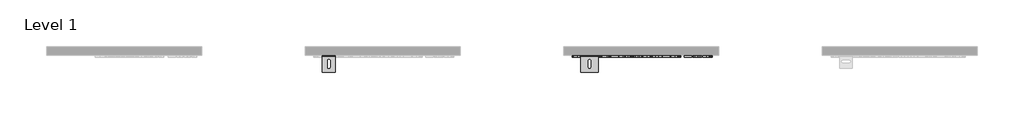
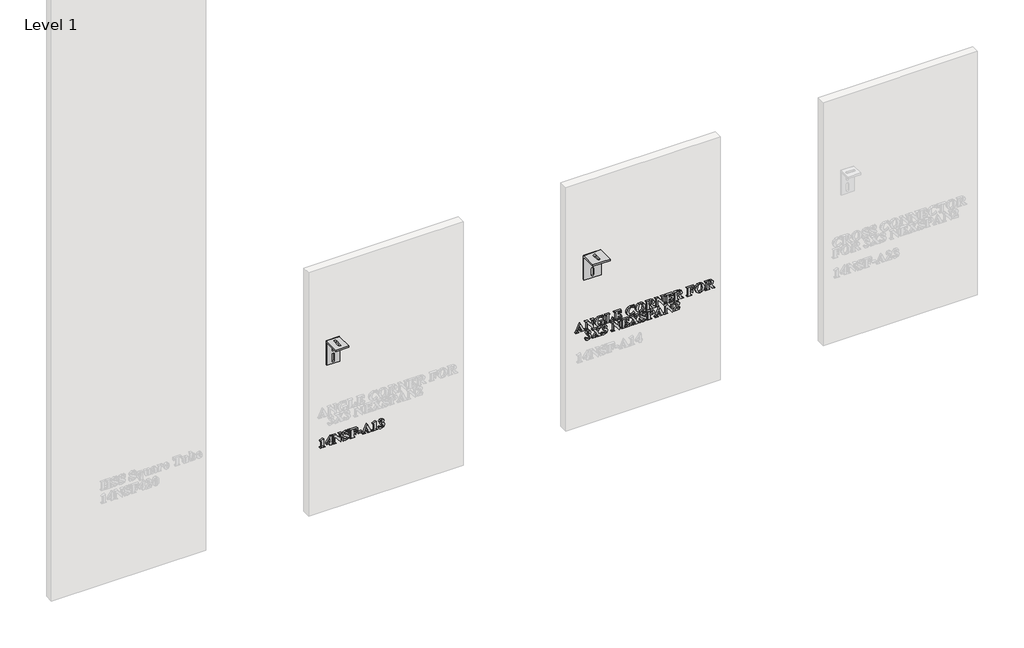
# One storey, part 4 of 21: 4 proxies.
"""IFC4 building model written with IfcOpenShell, lengths in millimetres."""

from ifc_helpers import new_model, si_unit, frame, origin, place, context, project, spatial, polyline, outline, extrude, transform, mapped, element, save
from components import generic_models_b7856e18, generic_models_f0b3e273

model = new_model("IFC4")

# Units and contexts
model_context = context("Model", 3, world=origin())
ifc_project = project(units=[si_unit("LENGTHUNIT", "METRE", prefix="MILLI")], contexts=[model_context])

# Site, building, storey
site = spatial("IfcSite", under=ifc_project)
building = spatial("IfcBuilding", under=site)
storey = spatial("IfcBuildingStorey", under=building, Name="Level 1", Elevation=0.0)

# Proxies
placement = place(None, origin())
element("IfcBuildingElementProxy", 1, Name="2\"\" Arial", ObjectType="2\"\" Arial", at=placement, inside=storey, context=model_context, shape_type="SweptSolid", body=[
    extrude(outline(polyline([(463.8692305, 2388.4026674), (455.0050049, 2368.6451396), (453.2321598, 2369.3099565), (454.4648412, 2373.8667225), (453.827725, 2375.9442753), (452.3111114, 2377.1769567), (447.9136245, 2377.5093652), (421.3209478, 2377.5093652), (415.2544934, 2376.9899769), (413.2046413, 2375.0024514), (412.4567222, 2368.6451396), (410.6838771, 2368.6451396), (410.6838771, 2397.0106614), (412.4567222, 2395.77798), (413.273893, 2391.3043162), (415.3791466, 2389.4691445), (421.3209478, 2389.0328584), (463.8692305, 2388.4026674)])), frame((0.0, -15490.3579358, 0.0), z_axis=(0.0, 1.0, 0.0), x_axis=(0.0, 0.0, 1.0)), (0.0, 0.0, 1.0), 12.7),
    extrude(outline(polyline([(430.1851733, 2405.874887), (422.2073703, 2405.874887), (422.2073703, 2424.4897607), (410.6838771, 2424.4897607), (410.6838771, 2436.0132539), (422.2073703, 2436.0132539), (422.2073703, 2440.4453667), (430.1851733, 2440.4453667), (430.1851733, 2436.0132539), (463.8692305, 2436.0132539), (463.8692305, 2430.9024738), (430.1851733, 2405.874887)]), holes=[polyline([(430.1851733, 2408.5618553), (451.6116686, 2424.4897607), (430.1851733, 2424.4897607), (430.1851733, 2408.5618553)])]), frame((0.0, -15490.3579358, 0.0), z_axis=(0.0, 1.0, 0.0), x_axis=(0.0, 0.0, 1.0)), (0.0, 0.0, 1.0), 12.7),
    extrude(outline(polyline([(462.9828079, 2463.0768426), (462.9828079, 2444.6558738), (461.2099628, 2444.6558738), (460.6074725, 2448.319292), (457.4565173, 2451.9688599), (419.5481027, 2451.9688599), (414.097989, 2450.4106952), (412.4567222, 2444.8774794), (410.6838771, 2444.8774794), (410.6838771, 2462.6059306), (412.4567222, 2461.5117527), (413.9179344, 2457.3358715), (419.5481027, 2455.5145501), (452.9551528, 2455.5145501), (409.7974546, 2489.3371108), (409.7974546, 2490.9714524), (452.3457373, 2490.9714524), (457.7820006, 2491.6293441), (460.0673087, 2493.4645158), (461.2099628, 2498.0628328), (462.9828079, 2498.0628328), (462.9828079, 2480.3343817), (461.2099628, 2480.3343817), (458.9662057, 2486.1653801), (452.3457373, 2487.4257622), (431.9164674, 2487.4257622), (462.9828079, 2463.0768426)])), frame((0.0, -15490.3579358, 0.0), z_axis=(0.0, 1.0, 0.0), x_axis=(0.0, 0.0, 1.0)), (0.0, 0.0, 1.0), 12.7),
    extrude(outline(polyline([(463.8692305, 2538.8382704), (463.8692305, 2537.0654253), (460.9329558, 2535.9573971), (460.3235403, 2534.3230555), (461.5631468, 2530.5626848), (463.259815, 2526.0128441), (463.8692305, 2520.9297647), (459.5409954, 2508.9976861), (449.0493534, 2504.2677907), (442.4427353, 2505.9021323), (437.0064719, 2510.5835514), (431.0992966, 2521.4283774), (427.0549937, 2529.1845748), (423.7863105, 2532.4463328), (420.2267699, 2533.5197351), (414.7905066, 2530.8535422), (412.4567222, 2523.6859848), (416.771107, 2512.8342337), (429.2987508, 2506.0406358), (429.2987508, 2504.2677907), (409.7974546, 2504.2677907), (409.7974546, 2506.0406358), (412.4705726, 2507.8619572), (413.3431448, 2510.0018366), (412.4844229, 2513.0627645), (410.3583938, 2518.6098307), (409.7974546, 2523.298175), (414.4788737, 2536.3590573), (425.6699585, 2541.4975381), (434.76964, 2538.8798215), (443.218355, 2526.1928986), (447.7058692, 2517.051666), (451.2654098, 2513.1320163), (454.3263377, 2512.2455937), (459.1254848, 2514.6694054), (461.2099628, 2521.2483228), (457.0756326, 2531.2621276), (446.1407794, 2537.0654253), (446.1407794, 2538.8382704), (463.8692305, 2538.8382704)])), frame((0.0, -15490.3579358, 0.0), z_axis=(0.0, 1.0, 0.0), x_axis=(0.0, 0.0, 1.0)), (0.0, 0.0, 1.0), 12.7),
    extrude(outline(polyline([(459.4371177, 2565.4309471), (459.4371177, 2569.8630599), (458.8415526, 2578.4225777), (455.1296581, 2584.8352909), (447.0272019, 2587.591511), (447.0272019, 2589.3643561), (462.9828079, 2589.3643561), (462.9828079, 2545.9296509), (461.2099628, 2545.9296509), (461.2099628, 2547.6055435), (460.5035948, 2550.9573288), (458.8484777, 2552.6124459), (454.1185824, 2553.0210313), (419.5481027, 2553.0210313), (414.963636, 2552.6193711), (413.2184916, 2551.123533), (412.4567222, 2547.6055435), (412.4567222, 2545.9296509), (410.6838771, 2545.9296509), (410.6838771, 2572.5223276), (412.4567222, 2572.5223276), (412.4567222, 2570.8602853), (413.1630902, 2567.5154252), (414.8182073, 2565.8533829), (419.5481027, 2565.4309471), (435.5037087, 2565.4309471), (435.5037087, 2567.2037922), (433.0868222, 2574.1151181), (423.0937929, 2577.8408629), (423.0937929, 2579.613708), (451.4593147, 2579.613708), (451.4593147, 2577.8408629), (444.0770768, 2575.9849157), (440.1989782, 2572.501552), (439.0493989, 2567.2037922), (439.0493989, 2565.4309471), (459.4371177, 2565.4309471)])), frame((0.0, -15490.3579358, 0.0), z_axis=(0.0, 1.0, 0.0), x_axis=(0.0, 0.0, 1.0)), (0.0, 0.0, 1.0), 12.7),
    extrude(outline(polyline([(2615.0706103, -15490.3579358), (2592.9100464, -15490.3579358), (2592.9100464, -15477.6579358), (2615.0706103, -15477.6579358), (2615.0706103, -15490.3579358)])), frame((0.0, 0.0, 424.866638), z_axis=(0.0, 0.0, 1.0), x_axis=(1.0, 0.0, 0.0)), (0.0, 0.0, 1.0), 7.977803),
    extrude(outline(polyline([(425.7530606, 2650.9153224), (419.1048914, 2653.8377468), (414.963636, 2655.222782), (413.273893, 2654.3779105), (412.4567222, 2649.0593752), (410.6838771, 2649.0593752), (410.6838771, 2674.4609215), (412.4567222, 2674.4609215), (413.8140568, 2670.7628774), (421.3070974, 2666.3307647), (463.8692305, 2646.6771145), (422.470527, 2627.8544856), (414.7420304, 2623.3877469), (412.4567222, 2618.7686544), (410.6838771, 2618.7686544), (410.6838771, 2636.5386566), (412.4567222, 2636.5386566), (413.3431448, 2631.4140261), (416.4317734, 2629.641181), (420.4345252, 2630.7215085), (425.7530606, 2633.1314699), (425.7530606, 2650.9153224)]), holes=[polyline([(429.2987508, 2649.3640829), (429.2987508, 2634.7381107), (445.6421667, 2642.1480493), (429.2987508, 2649.3640829)])]), frame((0.0, -15490.3579358, 0.0), z_axis=(0.0, 1.0, 0.0), x_axis=(0.0, 0.0, 1.0)), (0.0, 0.0, 1.0), 12.7),
    extrude(outline(polyline([(463.8692305, 2699.5369846), (455.0050049, 2679.7794569), (453.2321598, 2680.4442738), (454.4648412, 2685.0010397), (453.827725, 2687.0785926), (452.3111114, 2688.311274), (447.9136245, 2688.6436824), (421.3209478, 2688.6436824), (415.2544934, 2688.1242942), (413.2046413, 2686.1367686), (412.4567222, 2679.7794569), (410.6838771, 2679.7794569), (410.6838771, 2708.1449787), (412.4567222, 2706.9122973), (413.273893, 2702.4386335), (415.3791466, 2700.6034618), (421.3209478, 2700.1671757), (463.8692305, 2699.5369846)])), frame((0.0, -15490.3579358, 0.0), z_axis=(0.0, 1.0, 0.0), x_axis=(0.0, 0.0, 1.0)), (0.0, 0.0, 1.0), 12.7),
    extrude(outline(polyline([(439.0493989, 2724.9870073), (432.8790669, 2736.8775348), (423.1214936, 2740.9426133), (417.3805225, 2738.8373597), (415.1159899, 2733.7958314), (418.2323192, 2726.5382467), (421.6533562, 2722.0368822), (422.2073703, 2719.5715194), (420.7184575, 2716.5452174), (417.124291, 2715.2363591), (412.4013208, 2717.4939666), (409.7974546, 2727.4385196), (411.3123369, 2736.6143781), (415.8569837, 2743.7265341), (422.5657482, 2748.2867626), (430.5729832, 2749.8068388), (439.1186507, 2746.9675166), (444.8526966, 2738.7265569), (449.0562786, 2745.1115694), (454.0216299, 2747.1475712), (460.9191054, 2743.5118536), (463.8692305, 2734.2805937), (461.4246433, 2724.3291155), (453.6061193, 2717.8956268), (458.5506952, 2727.2861658), (456.1892101, 2733.2348921), (450.5313411, 2735.6240779), (445.8291464, 2734.3429203), (442.3804087, 2731.302768), (439.0493989, 2724.9870073)])), frame((0.0, -15490.3579358, 0.0), z_axis=(0.0, 1.0, 0.0), x_axis=(0.0, 0.0, 1.0)), (0.0, 0.0, 1.0), 12.7),
])
element("IfcBuildingElementProxy", 2, Name="2\"\" Arial", ObjectType="2\"\" Arial", at=placement, inside=storey, context=model_context, shape_type="SweptSolid", body=[
    extrude(outline(polyline([(615.3485426, 3914.1620487), (608.7003734, 3917.0844731), (604.559118, 3918.4695083), (602.869375, 3917.6246368), (602.0522042, 3912.3061015), (600.2793591, 3912.3061015), (600.2793591, 3937.7076479), (602.0522042, 3937.7076479), (603.4095388, 3934.0096038), (610.9025794, 3929.577491), (653.4647125, 3909.9238409), (612.066009, 3891.1012119), (604.3375124, 3886.6344732), (602.0522042, 3882.0153807), (600.2793591, 3882.0153807), (600.2793591, 3899.7853829), (602.0522042, 3899.7853829), (602.9386268, 3894.6607525), (606.0272554, 3892.8879074), (610.0300072, 3893.9682349), (615.3485426, 3896.3781962), (615.3485426, 3914.1620487)]), holes=[polyline([(618.8942328, 3912.6108092), (618.8942328, 3897.9848371), (635.2376487, 3905.3947756), (618.8942328, 3912.6108092)])]), frame((0.0, -15490.3579358, 0.0), z_axis=(0.0, 1.0, 0.0), x_axis=(0.0, 0.0, 1.0)), (0.0, 0.0, 1.0), 12.7),
    extrude(outline(polyline([(652.5782899, 3957.6798561), (652.5782899, 3939.2588873), (650.8054448, 3939.2588873), (650.2029545, 3942.9223056), (647.0519993, 3946.5718734), (609.1435847, 3946.5718734), (603.693471, 3945.0137088), (602.0522042, 3939.480493), (600.2793591, 3939.480493), (600.2793591, 3957.2089441), (602.0522042, 3956.1147663), (603.5134164, 3951.938885), (609.1435847, 3950.1175637), (642.5506348, 3950.1175637), (599.3929366, 3983.9401243), (599.3929366, 3985.5744659), (641.9412193, 3985.5744659), (647.3774826, 3986.2323577), (649.6627907, 3988.0675294), (650.8054448, 3992.6658464), (652.5782899, 3992.6658464), (652.5782899, 3974.9373952), (650.8054448, 3974.9373952), (648.5616877, 3980.7683936), (641.9412193, 3982.0287757), (621.5119494, 3982.0287757), (652.5782899, 3957.6798561)])), frame((0.0, -15490.3579358, 0.0), z_axis=(0.0, 1.0, 0.0), x_axis=(0.0, 0.0, 1.0)), (0.0, 0.0, 1.0), 12.7),
    extrude(outline(polyline([(653.4647125, 4047.6240449), (653.4647125, 4045.8511997), (650.6600161, 4044.2237833), (649.9190223, 4042.2916592), (651.2625064, 4037.9841996), (652.896848, 4032.7072153), (653.4647125, 4025.975944), (651.4564114, 4014.9285566), (645.4315081, 4005.9414092), (636.4945682, 3999.9736386), (625.7501572, 3997.9843817), (613.9773577, 4000.6020983), (606.6505212, 4006.287668), (601.3943125, 4014.6809816), (599.3929366, 4026.6546113), (600.4663389, 4037.5271379), (603.6449948, 4047.6240449), (615.3485426, 4047.6240449), (618.3402187, 4047.9703037), (620.002261, 4049.750074), (620.6670779, 4053.8290028), (622.439923, 4053.8290028), (622.439923, 4028.1227486), (620.6670779, 4029.5354846), (620.0576624, 4032.9288209), (618.6864775, 4034.7709178), (615.3485426, 4035.2141291), (603.6449948, 4035.2141291), (602.4607896, 4031.4329829), (602.0522042, 4027.8457416), (604.7114719, 4019.1269447), (613.0355337, 4013.8153345), (626.2210692, 4012.1671426), (638.3193521, 4013.6837562), (647.5090609, 4018.8499377), (650.8054448, 4027.9980954), (646.961972, 4038.5866899), (635.7362614, 4045.8511997), (635.7362614, 4047.6240449), (653.4647125, 4047.6240449)])), frame((0.0, -15490.3579358, 0.0), z_axis=(0.0, 1.0, 0.0), x_axis=(0.0, 0.0, 1.0)), (0.0, 0.0, 1.0), 12.7),
    extrude(outline(polyline([(619.7806553, 4106.1279336), (619.7806553, 4104.3550885), (610.1269597, 4100.5600919), (605.3416629, 4095.809421), (603.8250493, 4088.9396462), (603.8250493, 4084.6321866), (604.1713081, 4080.0200192), (605.7848742, 4078.2194734), (610.8333277, 4077.7624118), (643.7140644, 4077.7624118), (648.298531, 4078.1363713), (650.0436754, 4079.5491072), (650.8054448, 4082.8177904), (650.8054448, 4084.8537922), (652.5782899, 4084.8537922), (652.5782899, 4058.2611155), (650.8054448, 4058.2611155), (650.8054448, 4059.9370082), (650.0990768, 4063.2887935), (648.4439597, 4064.9439106), (643.7140644, 4065.352496), (609.1435847, 4065.352496), (604.559118, 4064.9508358), (602.8139736, 4063.4549977), (602.0522042, 4059.9370082), (602.0522042, 4058.2611155), (600.2793591, 4058.2611155), (600.2793591, 4104.3550885), (619.7806553, 4106.1279336)])), frame((0.0, -15490.3579358, 0.0), z_axis=(0.0, 1.0, 0.0), x_axis=(0.0, 0.0, 1.0)), (0.0, 0.0, 1.0), 12.7),
    extrude(outline(polyline([(649.0325997, 4130.0613426), (649.0325997, 4134.4934554), (648.3400821, 4142.5266598), (644.7320653, 4148.2191546), (636.6226839, 4151.3354839), (636.6226839, 4153.1083291), (652.5782899, 4153.1083291), (652.5782899, 4110.5600464), (650.8054448, 4110.5600464), (650.8054448, 4112.235939), (649.7805187, 4116.086337), (647.827619, 4117.4713722), (643.7140644, 4117.6514268), (609.1435847, 4117.6514268), (604.559118, 4117.2497666), (602.8139736, 4115.7539285), (602.0522042, 4112.235939), (602.0522042, 4110.5600464), (600.2793591, 4110.5600464), (600.2793591, 4154.3687111), (616.8859317, 4155.3105351), (606.4427659, 4149.1956045), (602.9386268, 4137.8729414), (602.9386268, 4134.8535645), (603.5549675, 4131.7372352), (605.1339076, 4130.4145266), (610.4039667, 4130.0613426), (625.0991907, 4130.0613426), (624.0950401, 4135.068245), (620.1753904, 4138.1014722), (612.6892749, 4139.8119907), (612.6892749, 4141.5848358), (640.1683741, 4141.5848358), (640.1683741, 4139.8119907), (630.9024884, 4137.3050769), (627.7584584, 4130.0613426), (649.0325997, 4130.0613426)])), frame((0.0, -15490.3579358, 0.0), z_axis=(0.0, 1.0, 0.0), x_axis=(0.0, 0.0, 1.0)), (0.0, 0.0, 1.0), 12.7),
    extrude(outline(polyline([(653.4647125, 4231.9999366), (653.4647125, 4230.2270915), (650.7708189, 4229.0775122), (649.9190223, 4226.986109), (651.2209554, 4222.5816969), (653.4647125, 4211.1967072), (649.8012943, 4197.394831), (639.5035572, 4187.0693933), (625.4731502, 4183.246696), (612.2460636, 4186.7162093), (602.710096, 4196.570735), (599.3929366, 4211.1828569), (601.4220132, 4222.1107849), (607.9663047, 4231.113514), (612.4676693, 4231.113514), (605.0785062, 4222.740976), (602.9386268, 4213.9944784), (605.854126, 4204.5208373), (614.4551948, 4199.1469006), (627.0797911, 4197.4294569), (639.8636664, 4199.7563161), (647.1420266, 4205.490362), (649.9190223, 4214.1052812), (646.2625292, 4224.1675623), (635.7362614, 4230.2270915), (635.7362614, 4231.9999366), (653.4647125, 4231.9999366)])), frame((0.0, -15490.3579358, 0.0), z_axis=(0.0, 1.0, 0.0), x_axis=(0.0, 0.0, 1.0)), (0.0, 0.0, 1.0), 12.7),
    extrude(outline(polyline([(653.4647125, 4267.11058), (651.8788471, 4256.5687305), (646.1794271, 4247.8239642), (637.4606302, 4241.9392957), (626.8166344, 4239.9777396), (617.1733265, 4241.4839654), (608.9358294, 4246.0026429), (601.7786598, 4255.2200524), (599.3929366, 4267.6091927), (601.8929252, 4279.9671697), (609.392891, 4289.1741915), (626.8581854, 4294.9359381), (637.4969874, 4293.0038139), (646.2002026, 4287.2074414), (651.884041, 4278.3189777), (653.4647125, 4267.11058)]), holes=[polyline([(650.8054448, 4267.5676416), (648.6863409, 4274.1811849), (641.4356814, 4278.9041551), (625.9440622, 4280.7531772), (611.8444034, 4278.938781), (603.9774032, 4273.869552), (602.0522042, 4267.4983899), (606.5120177, 4258.6757154), (626.2487699, 4254.1605005), (643.4924587, 4257.0829248), (648.9771983, 4261.5046499), (650.8054448, 4267.5676416)])]), frame((0.0, -15490.3579358, 0.0), z_axis=(0.0, 1.0, 0.0), x_axis=(0.0, 0.0, 1.0)), (0.0, 0.0, 1.0), 12.7),
    extrude(outline(polyline([(624.2127681, 4318.8693471), (624.2127681, 4322.3042345), (600.2793591, 4339.0908617), (600.2793591, 4355.2126719), (602.0522042, 4355.2126719), (603.3956884, 4351.9439887), (607.7723998, 4348.7999587), (625.4592998, 4336.3900429), (628.9911397, 4343.3429199), (638.395529, 4347.2348689), (646.5326111, 4344.4717236), (651.2902072, 4337.3387921), (652.5782899, 4323.5369159), (652.5782899, 4299.3680509), (650.8054448, 4299.3680509), (650.2029545, 4304.1533476), (648.5963136, 4305.9469683), (643.7140644, 4306.4594313), (609.1435847, 4306.4594313), (604.2751858, 4305.9469683), (602.6685449, 4304.1741232), (602.0522042, 4299.3680509), (600.2793591, 4299.3680509), (600.2793591, 4325.9607275), (602.0522042, 4325.9607275), (602.6546946, 4321.1754308), (604.2613354, 4319.3818101), (609.1435847, 4318.8693471), (624.2127681, 4318.8693471)]), holes=[polyline([(649.9190223, 4318.8693471), (649.9190223, 4322.9967521), (647.0450741, 4332.0271819), (638.160073, 4334.8249531), (631.4288018, 4333.3014143), (627.862336, 4329.1116827), (626.8720358, 4321.0715531), (626.8720358, 4318.8693471), (649.9190223, 4318.8693471)])]), frame((0.0, -15490.3579358, 0.0), z_axis=(0.0, 1.0, 0.0), x_axis=(0.0, 0.0, 1.0)), (0.0, 0.0, 1.0), 12.7),
    extrude(outline(polyline([(652.5782899, 4374.2984576), (652.5782899, 4355.8774888), (650.8054448, 4355.8774888), (650.2029545, 4359.540907), (647.0519993, 4363.1904749), (609.1435847, 4363.1904749), (603.693471, 4361.6323103), (602.0522042, 4356.0990945), (600.2793591, 4356.0990945), (600.2793591, 4373.8275456), (602.0522042, 4372.7333677), (603.5134164, 4368.5574865), (609.1435847, 4366.7361651), (642.5506348, 4366.7361651), (599.3929366, 4400.5587258), (599.3929366, 4402.1930674), (641.9412193, 4402.1930674), (647.3774826, 4402.8509591), (649.6627907, 4404.6861308), (650.8054448, 4409.2844478), (652.5782899, 4409.2844478), (652.5782899, 4391.5559967), (650.8054448, 4391.5559967), (648.5616877, 4397.3869951), (641.9412193, 4398.6473772), (621.5119494, 4398.6473772), (652.5782899, 4374.2984576)])), frame((0.0, -15490.3579358, 0.0), z_axis=(0.0, 1.0, 0.0), x_axis=(0.0, 0.0, 1.0)), (0.0, 0.0, 1.0), 12.7),
    extrude(outline(polyline([(649.0325997, 4433.2178569), (649.0325997, 4437.6499696), (648.3400821, 4445.6831741), (644.7320653, 4451.3756689), (636.6226839, 4454.4919982), (636.6226839, 4456.2648433), (652.5782899, 4456.2648433), (652.5782899, 4413.7165606), (650.8054448, 4413.7165606), (650.8054448, 4415.3924533), (649.7805187, 4419.2428513), (647.827619, 4420.6278865), (643.7140644, 4420.8079411), (609.1435847, 4420.8079411), (604.559118, 4420.4062809), (602.8139736, 4418.9104428), (602.0522042, 4415.3924533), (602.0522042, 4413.7165606), (600.2793591, 4413.7165606), (600.2793591, 4457.5252254), (616.8859317, 4458.4670494), (606.4427659, 4452.3521188), (602.9386268, 4441.0294556), (602.9386268, 4438.0100788), (603.5549675, 4434.8937495), (605.1339076, 4433.5710409), (610.4039667, 4433.2178569), (625.0991907, 4433.2178569), (624.0950401, 4438.2247593), (620.1753904, 4441.2579865), (612.6892749, 4442.968505), (612.6892749, 4444.7413501), (640.1683741, 4444.7413501), (640.1683741, 4442.968505), (630.9024884, 4440.4615912), (627.7584584, 4433.2178569), (649.0325997, 4433.2178569)])), frame((0.0, -15490.3579358, 0.0), z_axis=(0.0, 1.0, 0.0), x_axis=(0.0, 0.0, 1.0)), (0.0, 0.0, 1.0), 12.7),
    extrude(outline(polyline([(624.2127681, 4484.6303651), (624.2127681, 4488.0652525), (600.2793591, 4504.8518797), (600.2793591, 4520.9736899), (602.0522042, 4520.9736899), (603.3956884, 4517.7050068), (607.7723998, 4514.5609768), (625.4592998, 4502.151061), (628.9911397, 4509.1039379), (638.395529, 4512.9958869), (646.5326111, 4510.2327416), (651.2902072, 4503.0998101), (652.5782899, 4489.2979339), (652.5782899, 4465.1290689), (650.8054448, 4465.1290689), (650.2029545, 4469.9143657), (648.5963136, 4471.7079863), (643.7140644, 4472.2204493), (609.1435847, 4472.2204493), (604.2751858, 4471.7079863), (602.6685449, 4469.9351412), (602.0522042, 4465.1290689), (600.2793591, 4465.1290689), (600.2793591, 4491.7217456), (602.0522042, 4491.7217456), (602.6546946, 4486.9364488), (604.2613354, 4485.1428282), (609.1435847, 4484.6303651), (624.2127681, 4484.6303651)]), holes=[polyline([(649.9190223, 4484.6303651), (649.9190223, 4488.7577702), (647.0450741, 4497.7882), (638.160073, 4500.5859711), (631.4288018, 4499.0624324), (627.862336, 4494.8727008), (626.8720358, 4486.8325712), (626.8720358, 4484.6303651), (649.9190223, 4484.6303651)])]), frame((0.0, -15490.3579358, 0.0), z_axis=(0.0, 1.0, 0.0), x_axis=(0.0, 0.0, 1.0)), (0.0, 0.0, 1.0), 12.7),
    extrude(outline(polyline([(649.0325997, 4561.7491275), (649.0325997, 4566.1812403), (648.4370346, 4574.7407581), (644.7251401, 4581.1534713), (636.6226839, 4583.9096914), (636.6226839, 4585.6825366), (652.5782899, 4585.6825366), (652.5782899, 4542.2478313), (650.8054448, 4542.2478313), (650.8054448, 4543.9237239), (650.0990768, 4547.2755092), (648.4439597, 4548.9306263), (643.7140644, 4549.3392117), (609.1435847, 4549.3392117), (604.559118, 4548.9375515), (602.8139736, 4547.4417135), (602.0522042, 4543.9237239), (602.0522042, 4542.2478313), (600.2793591, 4542.2478313), (600.2793591, 4568.840508), (602.0522042, 4568.840508), (602.0522042, 4567.1784657), (602.7585722, 4563.8336056), (604.4136893, 4562.1715633), (609.1435847, 4561.7491275), (625.0991907, 4561.7491275), (625.0991907, 4563.5219726), (622.6823042, 4570.4332985), (612.6892749, 4574.1590433), (612.6892749, 4575.9318884), (641.0547967, 4575.9318884), (641.0547967, 4574.1590433), (633.6725588, 4572.3030961), (629.7944602, 4568.8197325), (628.6448809, 4563.5219726), (628.6448809, 4561.7491275), (649.0325997, 4561.7491275)])), frame((0.0, -15490.3579358, 0.0), z_axis=(0.0, 1.0, 0.0), x_axis=(0.0, 0.0, 1.0)), (0.0, 0.0, 1.0), 12.7),
    extrude(outline(polyline([(653.4647125, 4618.1339123), (651.8788471, 4607.5920628), (646.1794271, 4598.8472966), (637.4606302, 4592.9626281), (626.8166344, 4591.0010719), (617.1733265, 4592.5072977), (608.9358294, 4597.0259752), (601.7786598, 4606.2433848), (599.3929366, 4618.632525), (601.8929252, 4630.990502), (609.392891, 4640.1975238), (626.8581854, 4645.9592704), (637.4969874, 4644.0271462), (646.2002026, 4638.2307737), (651.884041, 4629.34231), (653.4647125, 4618.1339123)]), holes=[polyline([(650.8054448, 4618.590974), (648.6863409, 4625.2045173), (641.4356814, 4629.9274874), (625.9440622, 4631.7765095), (611.8444034, 4629.9621133), (603.9774032, 4624.8928843), (602.0522042, 4618.5217222), (606.5120177, 4609.6990477), (626.2487699, 4605.1838328), (643.4924587, 4608.1062572), (648.9771983, 4612.5279822), (650.8054448, 4618.590974)])]), frame((0.0, -15490.3579358, 0.0), z_axis=(0.0, 1.0, 0.0), x_axis=(0.0, 0.0, 1.0)), (0.0, 0.0, 1.0), 12.7),
    extrude(outline(polyline([(624.2127681, 4669.8926794), (624.2127681, 4673.3275668), (600.2793591, 4690.114194), (600.2793591, 4706.2360042), (602.0522042, 4706.2360042), (603.3956884, 4702.967321), (607.7723998, 4699.823291), (625.4592998, 4687.4133752), (628.9911397, 4694.3662522), (638.395529, 4698.2582012), (646.5326111, 4695.4950559), (651.2902072, 4688.3621244), (652.5782899, 4674.5602482), (652.5782899, 4650.3913832), (650.8054448, 4650.3913832), (650.2029545, 4655.1766799), (648.5963136, 4656.9703006), (643.7140644, 4657.4827636), (609.1435847, 4657.4827636), (604.2751858, 4656.9703006), (602.6685449, 4655.1974555), (602.0522042, 4650.3913832), (600.2793591, 4650.3913832), (600.2793591, 4676.9840599), (602.0522042, 4676.9840599), (602.6546946, 4672.1987631), (604.2613354, 4670.4051424), (609.1435847, 4669.8926794), (624.2127681, 4669.8926794)]), holes=[polyline([(649.9190223, 4669.8926794), (649.9190223, 4674.0200844), (647.0450741, 4683.0505142), (638.160073, 4685.8482854), (631.4288018, 4684.3247467), (627.862336, 4680.135015), (626.8720358, 4672.0948854), (626.8720358, 4669.8926794), (649.9190223, 4669.8926794)])]), frame((0.0, -15490.3579358, 0.0), z_axis=(0.0, 1.0, 0.0), x_axis=(0.0, 0.0, 1.0)), (0.0, 0.0, 1.0), 12.7),
    extrude(outline(polyline([(564.5485426, 3950.1175637), (558.3782106, 3962.0080912), (548.6206373, 3966.0731697), (542.8796662, 3963.9679161), (540.6151335, 3958.9263878), (543.7314628, 3951.6688031), (547.1524999, 3947.1674386), (547.706514, 3944.7020759), (546.2176011, 3941.6757738), (542.6234346, 3940.3669155), (537.9004645, 3942.624523), (535.2965982, 3952.569076), (536.8114805, 3961.7449345), (541.3561274, 3968.8570905), (548.0648919, 3973.4173191), (556.0721269, 3974.9373952), (564.6177943, 3972.098073), (570.3518402, 3963.8571133), (574.5554222, 3970.2421258), (579.5207736, 3972.2781276), (586.4182491, 3968.6424101), (589.3683741, 3959.4111501), (586.9237869, 3949.4596719), (579.105263, 3943.0261832), (584.0498388, 3952.4167222), (581.6883537, 3958.3654485), (576.0304847, 3960.7546343), (571.3282901, 3959.4734767), (567.8795523, 3956.4333244), (564.5485426, 3950.1175637)])), frame((0.0, -15490.3579358, 0.0), z_axis=(0.0, 1.0, 0.0), x_axis=(0.0, 0.0, 1.0)), (0.0, 0.0, 1.0), 12.7),
    extrude(outline(polyline([(566.5845444, 4012.4718504), (578.4681468, 4021.9593418), (584.2021927, 4026.9731694), (586.1481672, 4029.9371448), (586.7091065, 4033.5936378), (588.4819516, 4033.5936378), (588.4819516, 4014.1615934), (586.7091065, 4014.1615934), (586.2243441, 4017.6241815), (584.88086, 4019.3416252), (583.0110624, 4019.9371903), (575.9473826, 4015.6989825), (569.5069687, 4010.5466514), (579.146814, 4004.2170403), (584.3406962, 4001.2946159), (586.0304392, 4002.1810385), (586.7091065, 4006.5993009), (588.4819516, 4006.5993009), (588.4819516, 3981.059251), (586.7091065, 3981.059251), (585.9334867, 3983.8293215), (584.2021927, 3985.8653233), (579.0775623, 3989.6049185), (559.4377625, 4002.5134469), (546.8616425, 3992.4442407), (539.7425613, 3985.2420575), (537.9558659, 3979.8542704), (536.1830208, 3979.8542704), (536.1830208, 4000.2004381), (537.9558659, 4000.2004381), (538.1774715, 3996.8902039), (539.4655543, 3994.1547592), (541.4046036, 3993.2337108), (547.000146, 3996.8071017), (556.5291885, 4004.4247956), (545.781315, 4011.4884753), (540.4627797, 4014.4524508), (538.8422884, 4013.5660282), (537.9558659, 4009.6463785), (536.1830208, 4009.6463785), (536.1830208, 4034.937122), (537.9558659, 4034.937122), (539.2993501, 4031.3360304), (545.6428115, 4026.2252503), (566.5845444, 4012.4718504)])), frame((0.0, -15490.3579358, 0.0), z_axis=(0.0, 1.0, 0.0), x_axis=(0.0, 0.0, 1.0)), (0.0, 0.0, 1.0), 12.7),
    extrude(outline(polyline([(564.5485426, 4045.8511997), (558.3782106, 4057.7417273), (548.6206373, 4061.8068058), (542.8796662, 4059.7015522), (540.6151335, 4054.6600239), (543.7314628, 4047.4024392), (547.1524999, 4042.9010747), (547.706514, 4040.4357119), (546.2176011, 4037.4094099), (542.6234346, 4036.1005516), (537.9004645, 4038.3581591), (535.2965982, 4048.3027121), (536.8114805, 4057.4785706), (541.3561274, 4064.5907266), (548.0648919, 4069.1509551), (556.0721269, 4070.6710313), (564.6177943, 4067.8317091), (570.3518402, 4059.5907494), (574.5554222, 4065.9757618), (579.5207736, 4068.0117637), (586.4182491, 4064.3760461), (589.3683741, 4055.1447862), (586.9237869, 4045.193308), (579.105263, 4038.7598193), (584.0498388, 4048.1503582), (581.6883537, 4054.0990846), (576.0304847, 4056.4882704), (571.3282901, 4055.2071128), (567.8795523, 4052.1669605), (564.5485426, 4045.8511997)])), frame((0.0, -15490.3579358, 0.0), z_axis=(0.0, 1.0, 0.0), x_axis=(0.0, 0.0, 1.0)), (0.0, 0.0, 1.0), 12.7),
    extrude(outline(polyline([(588.4819516, 4114.5766486), (588.4819516, 4096.1556798), (586.7091065, 4096.1556798), (586.1066161, 4099.819098), (582.955661, 4103.4686659), (545.0472463, 4103.4686659), (539.5971326, 4101.9105013), (537.9558659, 4096.3772855), (536.1830208, 4096.3772855), (536.1830208, 4114.1057366), (537.9558659, 4113.0115587), (539.4170781, 4108.8356775), (545.0472463, 4107.0143561), (578.4542964, 4107.0143561), (535.2965982, 4140.8369168), (535.2965982, 4142.4712584), (577.8448809, 4142.4712584), (583.2811442, 4143.1291501), (585.5664524, 4144.9643218), (586.7091065, 4149.5626388), (588.4819516, 4149.5626388), (588.4819516, 4131.8341877), (586.7091065, 4131.8341877), (584.4653494, 4137.6651861), (577.8448809, 4138.9255682), (557.4156111, 4138.9255682), (588.4819516, 4114.5766486)])), frame((0.0, -15490.3579358, 0.0), z_axis=(0.0, 1.0, 0.0), x_axis=(0.0, 0.0, 1.0)), (0.0, 0.0, 1.0), 12.7),
    extrude(outline(polyline([(584.9362614, 4173.4960479), (584.9362614, 4177.9281606), (584.2437437, 4185.9613651), (580.6357269, 4191.6538599), (572.5263456, 4194.7701892), (572.5263456, 4196.5430343), (588.4819516, 4196.5430343), (588.4819516, 4153.9947516), (586.7091065, 4153.9947516), (586.7091065, 4155.6706443), (585.6841804, 4159.5210422), (583.7312807, 4160.9060775), (579.617726, 4161.0861321), (545.0472463, 4161.0861321), (540.4627797, 4160.6844718), (538.7176353, 4159.1886338), (537.9558659, 4155.6706443), (537.9558659, 4153.9947516), (536.1830208, 4153.9947516), (536.1830208, 4197.8034164), (552.7895933, 4198.7452404), (542.3464276, 4192.6303098), (538.8422884, 4181.3076466), (538.8422884, 4178.2882698), (539.4586291, 4175.1719405), (541.0375693, 4173.8492318), (546.3076284, 4173.4960479), (561.0028523, 4173.4960479), (559.9987018, 4178.5029503), (556.079052, 4181.5361774), (548.5929366, 4183.246696), (548.5929366, 4185.0195411), (576.0720358, 4185.0195411), (576.0720358, 4183.246696), (566.80615, 4180.7397822), (563.66212, 4173.4960479), (584.9362614, 4173.4960479)])), frame((0.0, -15490.3579358, 0.0), z_axis=(0.0, 1.0, 0.0), x_axis=(0.0, 0.0, 1.0)), (0.0, 0.0, 1.0), 12.7),
    extrude(outline(polyline([(566.5845444, 4236.7367571), (578.4681468, 4246.2242485), (584.2021927, 4251.2380761), (586.1481672, 4254.2020515), (586.7091065, 4257.8585446), (588.4819516, 4257.8585446), (588.4819516, 4238.4265001), (586.7091065, 4238.4265001), (586.2243441, 4241.8890882), (584.88086, 4243.6065319), (583.0110624, 4244.2020971), (575.9473826, 4239.9638892), (569.5069687, 4234.8115581), (579.146814, 4228.4819471), (584.3406962, 4225.5595227), (586.0304392, 4226.4459452), (586.7091065, 4230.8642077), (588.4819516, 4230.8642077), (588.4819516, 4205.3241578), (586.7091065, 4205.3241578), (585.9334867, 4208.0942283), (584.2021927, 4210.1302301), (579.0775623, 4213.8698252), (559.4377625, 4226.7783537), (546.8616425, 4216.7091475), (539.7425613, 4209.5069642), (537.9558659, 4204.1191771), (536.1830208, 4204.1191771), (536.1830208, 4224.4653448), (537.9558659, 4224.4653448), (538.1774715, 4221.1551106), (539.4655543, 4218.419666), (541.4046036, 4217.4986176), (547.000146, 4221.0720085), (556.5291885, 4228.6897023), (545.781315, 4235.7533821), (540.4627797, 4238.7173575), (538.8422884, 4237.830935), (537.9558659, 4233.9112852), (536.1830208, 4233.9112852), (536.1830208, 4259.2020288), (537.9558659, 4259.2020288), (539.2993501, 4255.6009371), (545.6428115, 4250.4901571), (566.5845444, 4236.7367571)])), frame((0.0, -15490.3579358, 0.0), z_axis=(0.0, 1.0, 0.0), x_axis=(0.0, 0.0, 1.0)), (0.0, 0.0, 1.0), 12.7),
    extrude(outline(polyline([(589.3683741, 4298.4816283), (589.3683741, 4296.7087832), (586.4320994, 4295.600755), (585.8226839, 4293.9664134), (587.0622905, 4290.2060427), (588.7589586, 4285.6562019), (589.3683741, 4280.5731226), (585.040139, 4268.641044), (574.548497, 4263.9111486), (567.9418789, 4265.5454902), (562.5056156, 4270.2269093), (556.5984403, 4281.0717353), (552.5541373, 4288.8279326), (549.2854542, 4292.0896906), (545.7259136, 4293.163093), (540.2896503, 4290.4969001), (537.9558659, 4283.3293427), (542.2702507, 4272.4775916), (554.7978944, 4265.6839937), (554.7978944, 4263.9111486), (535.2965982, 4263.9111486), (535.2965982, 4265.6839937), (537.9697162, 4267.5053151), (538.8422884, 4269.6451945), (537.9835666, 4272.7061224), (535.8575375, 4278.2531886), (535.2965982, 4282.9415329), (539.9780173, 4296.0024152), (551.1691021, 4301.140896), (560.2687837, 4298.5231794), (568.7174987, 4285.8362565), (573.2050128, 4276.6950239), (576.7645534, 4272.7753742), (579.8254813, 4271.8889516), (584.6246284, 4274.3127633), (586.7091065, 4280.8916807), (582.5747763, 4290.9054855), (571.639923, 4296.7087832), (571.639923, 4298.4816283), (589.3683741, 4298.4816283)])), frame((0.0, -15490.3579358, 0.0), z_axis=(0.0, 1.0, 0.0), x_axis=(0.0, 0.0, 1.0)), (0.0, 0.0, 1.0), 12.7),
    extrude(outline(polyline([(560.1164298, 4324.1878824), (561.030553, 4337.4426697), (565.9266526, 4346.5769772), (574.5623474, 4349.8941366), (584.5069004, 4344.8456831), (588.4819516, 4328.1906343), (588.4819516, 4304.6865862), (586.7091065, 4304.6865862), (586.1066161, 4309.471883), (584.4999753, 4311.2655036), (579.617726, 4311.7779666), (545.0472463, 4311.7779666), (540.1788474, 4311.2655036), (538.5722066, 4309.4926585), (537.9558659, 4304.6865862), (536.1830208, 4304.6865862), (536.1830208, 4331.2792629), (537.9558659, 4331.2792629), (538.5583562, 4326.5078165), (540.1649971, 4324.7003455), (545.0472463, 4324.1878824), (560.1164298, 4324.1878824)]), holes=[polyline([(585.8226839, 4324.1878824), (585.8226839, 4325.9745779), (583.0664638, 4334.5964223), (574.3822928, 4337.4842208), (565.5457679, 4334.5964223), (562.6925953, 4326.3762381), (562.7756975, 4324.1878824), (585.8226839, 4324.1878824)])]), frame((0.0, -15490.3579358, 0.0), z_axis=(0.0, 1.0, 0.0), x_axis=(0.0, 0.0, 1.0)), (0.0, 0.0, 1.0), 12.7),
    extrude(outline(polyline([(551.2522042, 4383.9660036), (544.604035, 4386.8884279), (540.4627797, 4388.2734632), (538.7730367, 4387.4285917), (537.9558659, 4382.1100564), (536.1830208, 4382.1100564), (536.1830208, 4407.5116027), (537.9558659, 4407.5116027), (539.3132004, 4403.8135586), (546.8062411, 4399.3814458), (589.3683741, 4379.7277957), (547.9696707, 4360.9051668), (540.241174, 4356.4384281), (537.9558659, 4351.8193356), (536.1830208, 4351.8193356), (536.1830208, 4369.5893377), (537.9558659, 4369.5893377), (538.8422884, 4364.4647073), (541.930917, 4362.6918622), (545.9336689, 4363.7721897), (551.2522042, 4366.182151), (551.2522042, 4383.9660036)]), holes=[polyline([(554.7978944, 4382.4147641), (554.7978944, 4367.7887919), (571.1413103, 4375.1987305), (554.7978944, 4382.4147641)])]), frame((0.0, -15490.3579358, 0.0), z_axis=(0.0, 1.0, 0.0), x_axis=(0.0, 0.0, 1.0)), (0.0, 0.0, 1.0), 12.7),
    extrude(outline(polyline([(588.4819516, 4427.483811), (588.4819516, 4409.0628422), (586.7091065, 4409.0628422), (586.1066161, 4412.7262604), (582.955661, 4416.3758283), (545.0472463, 4416.3758283), (539.5971326, 4414.8176636), (537.9558659, 4409.2844478), (536.1830208, 4409.2844478), (536.1830208, 4427.012899), (537.9558659, 4425.9187211), (539.4170781, 4421.7428399), (545.0472463, 4419.9215185), (578.4542964, 4419.9215185), (535.2965982, 4453.7440792), (535.2965982, 4455.3784208), (577.8448809, 4455.3784208), (583.2811442, 4456.0363125), (585.5664524, 4457.8714842), (586.7091065, 4462.4698012), (588.4819516, 4462.4698012), (588.4819516, 4444.7413501), (586.7091065, 4444.7413501), (584.4653494, 4450.5723485), (577.8448809, 4451.8327305), (557.4156111, 4451.8327305), (588.4819516, 4427.483811)])), frame((0.0, -15490.3579358, 0.0), z_axis=(0.0, 1.0, 0.0), x_axis=(0.0, 0.0, 1.0)), (0.0, 0.0, 1.0), 12.7),
    extrude(outline(polyline([(536.1830208, 4496.5555186), (551.2522042, 4498.1760098), (548.1635756, 4496.0776814), (547.1247992, 4494.0416796), (546.8200914, 4488.6885184), (546.8200914, 4477.5251343), (566.3906394, 4494.2425097), (576.6260499, 4497.0402809), (582.5609259, 4495.1497078), (587.5470528, 4489.9211998), (589.3683741, 4482.5389619), (585.864235, 4472.5459326), (574.548497, 4467.5251799), (579.0152357, 4471.694136), (580.5041486, 4477.275828), (577.8241054, 4483.7508678), (571.0997593, 4486.4032102), (559.7286199, 4483.3007313), (536.1830208, 4465.1290689), (536.1830208, 4496.5555186)])), frame((0.0, -15490.3579358, 0.0), z_axis=(0.0, 1.0, 0.0), x_axis=(0.0, 0.0, 1.0)), (0.0, 0.0, 1.0), 12.7),
])
generic_models_shape = generic_models_b7856e18(model_context)
element("IfcBuildingElementProxy", 3, Name="14NSF-A13 : 14NSF-A13", ObjectType="14NSF-A13 : 14NSF-A13", at=placement, inside=storey, context=model_context, shape_type="MappedRepresentation", body=[
    mapped(generic_models_shape, transform((2446.880478, -15477.6579358, 1066.8), x_axis=(1.0, 0.0, 0.0), y_axis=(0.0, 0.0, 1.0), z_axis=(0.0, -1.0, 0.0))),
])
generic_models_2_shape = generic_models_f0b3e273(model_context)
element("IfcBuildingElementProxy", 4, Name="14NSF-A14 : 14NSF-A14", ObjectType="14NSF-A14 : 14NSF-A14", at=placement, inside=storey, context=model_context, shape_type="MappedRepresentation", body=[
    mapped(generic_models_2_shape, transform((3983.580478, -15477.6579358, 1066.8), x_axis=(1.0, 0.0, 0.0), y_axis=(0.0, 0.0, 1.0), z_axis=(0.0, -1.0, 0.0))),
])

save(model, "model.ifc")
